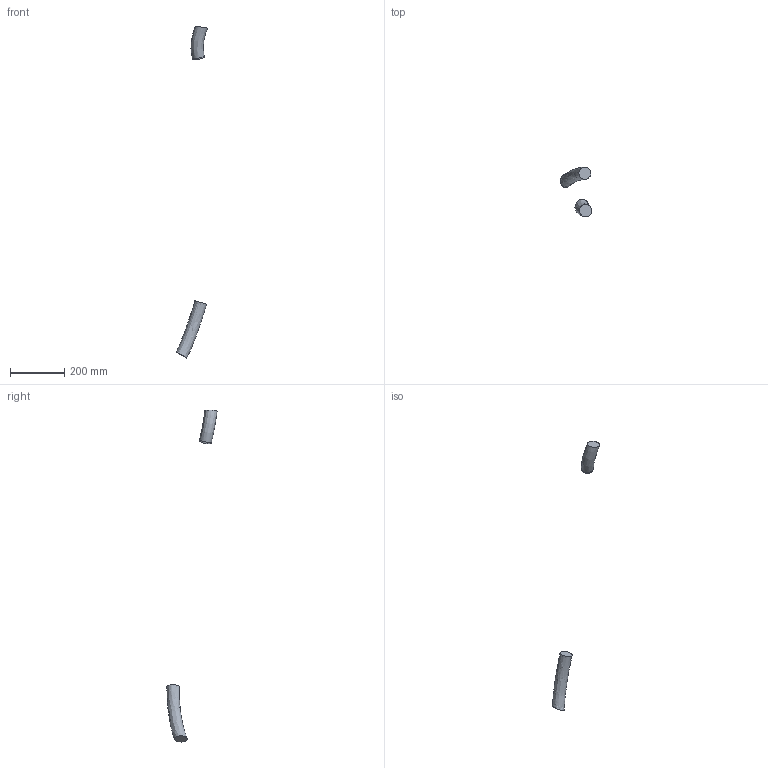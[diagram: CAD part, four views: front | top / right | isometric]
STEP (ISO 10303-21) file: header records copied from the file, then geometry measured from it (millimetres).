
FILE_DESCRIPTION (( 'STEP AP214' ), '1' );
FILE_NAME ('IRB6740-LID_230kg-300_OC_00_LINK02m_CABLE.step', '2026-05-07T13:21:07', ( '' ), ( '' ), 'SwSTEP 2.0', 'SolidWorks 2024', '' );
FILE_SCHEMA (( 'AUTOMOTIVE_DESIGN' ));
Length unit declared in the file: millimetre
Products named in the file (1): IRB6740-LID_230kg-300_OC_00_LINK02m_CABLE
Bounding box: 115.66 x 184.23 x 1219.11 mm (x, y, z)
Volume: 518237.9 mm3; surface area: 52577.5 mm2
Topology: 2 solids, 2 shells, 7 faces, 8 edges, 5 vertices
Faces by surface type: plane 4, bspline 2, cylinder 1
Full cylindrical faces by diameter (mm): 45 x1
Entity records: 1010 total; most frequent: CARTESIAN_POINT 886, DIRECTION 18, FACE_OUTER_BOUND 10, EDGE_LOOP 10, ORIENTED_EDGE 10, AXIS2_PLACEMENT_3D 9, ADVANCED_FACE 7, EDGE_CURVE 5
